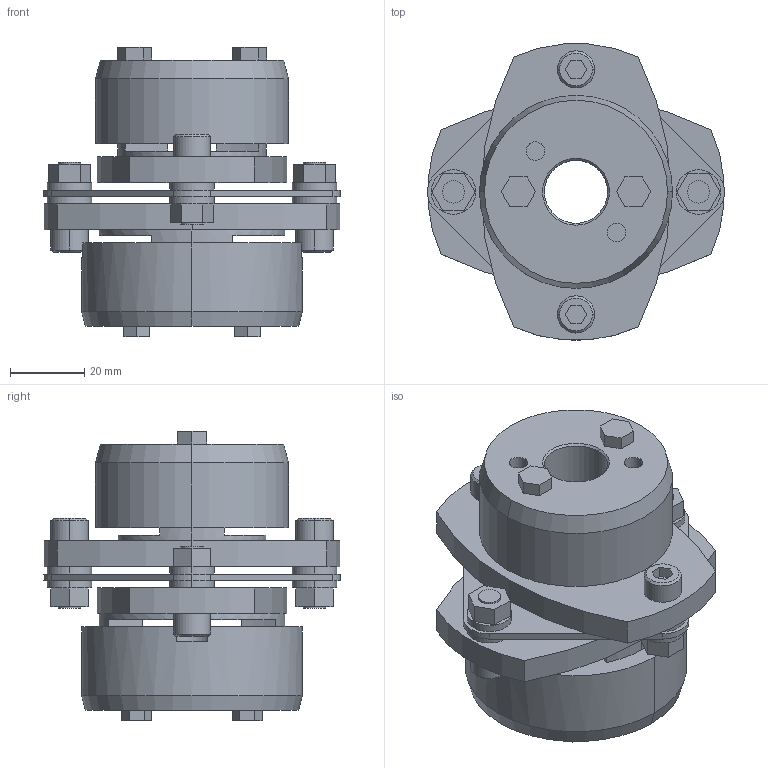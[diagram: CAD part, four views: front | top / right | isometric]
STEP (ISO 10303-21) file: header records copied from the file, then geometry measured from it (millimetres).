
FILE_DESCRIPTION((''),'2;1');
FILE_NAME('LCS-80T7-17×30.stp','2011-09-12T15:05:14',(''),(''),'AutoCAD STEP 2000i','AutoCAD 2000i',', , ');
FILE_SCHEMA(('CONFIG_CONTROL_DESIGN'));
Length unit declared in the file: millimetre
Products named in the file (10): LCS-80T7-17×30; 忣兜1; LC80T7-T030; LC80T7-T028; LC80T7-T024; LC80T7-T022; LC80T7-T019; LC80T7-T017-1; LC80T7-T017; LCS80-ITA
Assembly tree (9 placements, depth 2):
  LCS-80T7-17×30
    忣兜1
    LC80T7-T030
    LC80T7-T028
    LC80T7-T024
    LC80T7-T022
    LC80T7-T019
    LC80T7-T017-1
    LC80T7-T017
    LCS80-ITA
Bounding box: 80 x 79.95 x 78.05 mm (x, y, z)
Volume: 145312.8 mm3; surface area: 42363.6 mm2
Topology: 1 solids, 1 shells, 236 faces, 580 edges, 380 vertices
Faces by surface type: plane 134, cylinder 82, cone 20
Entity records: 7245 total; most frequent: DIRECTION 1276, CARTESIAN_POINT 1206, ORIENTED_EDGE 1160, EDGE_CURVE 580, AXIS2_PLACEMENT_3D 450, VERTEX_POINT 380, VECTOR 376, LINE 376
